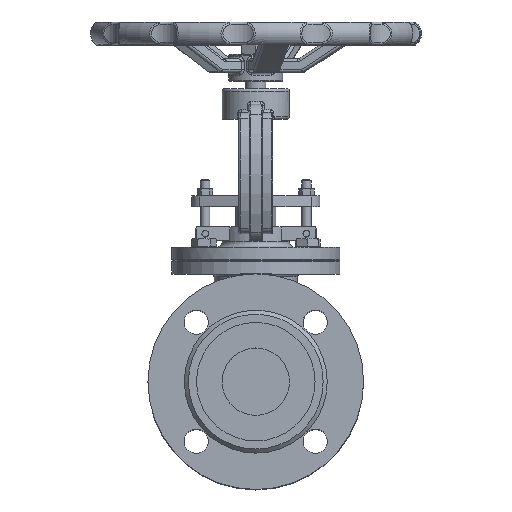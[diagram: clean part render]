
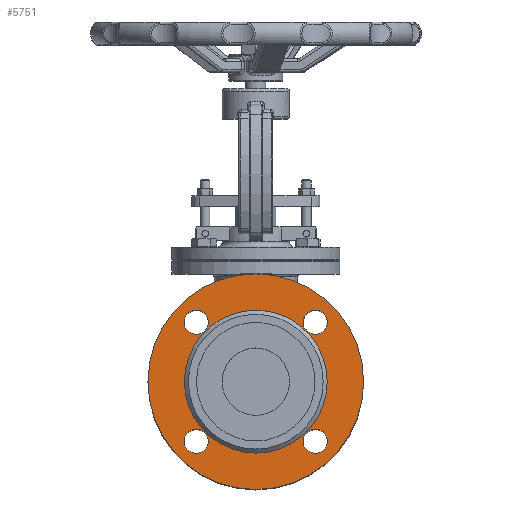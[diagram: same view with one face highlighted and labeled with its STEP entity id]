
A CAD part, top view. The second image highlights one B-rep face of the part: STEP entity #5751.
In plain terms, the highlighted planar face has unit normal (0, 0, 1).
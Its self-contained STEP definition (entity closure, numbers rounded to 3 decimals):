
#5751=ADVANCED_FACE('',(#14730,#14732,#14734,#14736,#14738,#14740),#14742,.T.);
#14730=FACE_BOUND('',#14731,.T.);
#14731=EDGE_LOOP('',(#22404));
#14732=FACE_BOUND('',#14733,.T.);
#14733=EDGE_LOOP('',(#22405));
#14734=FACE_BOUND('',#14735,.T.);
#14735=EDGE_LOOP('',(#22406));
#14736=FACE_BOUND('',#14737,.T.);
#14737=EDGE_LOOP('',(#22407));
#14738=FACE_BOUND('',#14739,.T.);
#14739=EDGE_LOOP('',(#22408));
#14740=FACE_BOUND('',#14741,.T.);
#14741=EDGE_LOOP('',(#22409));
#14742=PLANE('',#14743);
#14743=AXIS2_PLACEMENT_3D('',#14744,#14745,#14746);
#14744=CARTESIAN_POINT('',(0.,0.,112.));
#14745=DIRECTION('',(0.,0.,1.));
#14746=DIRECTION('',(0.,1.,0.));
#22404=ORIENTED_EDGE('',*,*,#25439,.F.);
#22405=ORIENTED_EDGE('',*,*,#25443,.T.);
#22406=ORIENTED_EDGE('',*,*,#25442,.T.);
#22407=ORIENTED_EDGE('',*,*,#25558,.T.);
#22408=ORIENTED_EDGE('',*,*,#25441,.T.);
#22409=ORIENTED_EDGE('',*,*,#25440,.T.);
#25439=EDGE_CURVE('',#28723,#28723,#28724,.T.);
#25440=EDGE_CURVE('',#28725,#28725,#28726,.F.);
#25441=EDGE_CURVE('',#28727,#28727,#28728,.F.);
#25442=EDGE_CURVE('',#28729,#28729,#28730,.F.);
#25443=EDGE_CURVE('',#28731,#28731,#28732,.F.);
#25558=EDGE_CURVE('',#28921,#28921,#28922,.T.);
#28723=VERTEX_POINT('',#51254);
#28724=CIRCLE('',#51255,80.);
#28725=VERTEX_POINT('',#51259);
#28726=CIRCLE('',#51260,9.);
#28727=VERTEX_POINT('',#51264);
#28728=CIRCLE('',#51265,9.);
#28729=VERTEX_POINT('',#51269);
#28730=CIRCLE('',#51270,9.);
#28731=VERTEX_POINT('',#51274);
#28732=CIRCLE('',#51275,9.);
#28921=VERTEX_POINT('',#52651);
#28922=CIRCLE('',#52652,53.);
#51254=CARTESIAN_POINT('',(0.,80.,112.));
#51255=AXIS2_PLACEMENT_3D('',#51256,#51257,#51258);
#51256=CARTESIAN_POINT('',(0.,0.,112.));
#51257=DIRECTION('',(0.,0.,-1.));
#51258=DIRECTION('',(0.,1.,0.));
#51259=CARTESIAN_POINT('',(35.194,-44.194,112.));
#51260=AXIS2_PLACEMENT_3D('',#51261,#51262,#51263);
#51261=CARTESIAN_POINT('',(44.194,-44.194,112.));
#51262=DIRECTION('',(0.,0.,1.));
#51263=DIRECTION('',(-1.,0.,0.));
#51264=CARTESIAN_POINT('',(-35.194,44.194,112.));
#51265=AXIS2_PLACEMENT_3D('',#51266,#51267,#51268);
#51266=CARTESIAN_POINT('',(-44.194,44.194,112.));
#51267=DIRECTION('',(0.,0.,1.));
#51268=DIRECTION('',(1.,0.,0.));
#51269=CARTESIAN_POINT('',(44.194,35.194,112.));
#51270=AXIS2_PLACEMENT_3D('',#51271,#51272,#51273);
#51271=CARTESIAN_POINT('',(44.194,44.194,112.));
#51272=DIRECTION('',(0.,0.,1.));
#51273=DIRECTION('',(0.,-1.,0.));
#51274=CARTESIAN_POINT('',(-44.194,-35.194,112.));
#51275=AXIS2_PLACEMENT_3D('',#51276,#51277,#51278);
#51276=CARTESIAN_POINT('',(-44.194,-44.194,112.));
#51277=DIRECTION('',(0.,0.,1.));
#51278=DIRECTION('',(0.,1.,0.));
#52651=CARTESIAN_POINT('',(0.,53.,112.));
#52652=AXIS2_PLACEMENT_3D('',#52653,#52654,#52655);
#52653=CARTESIAN_POINT('',(0.,0.,112.));
#52654=DIRECTION('',(0.,0.,-1.));
#52655=DIRECTION('',(0.,1.,0.));
